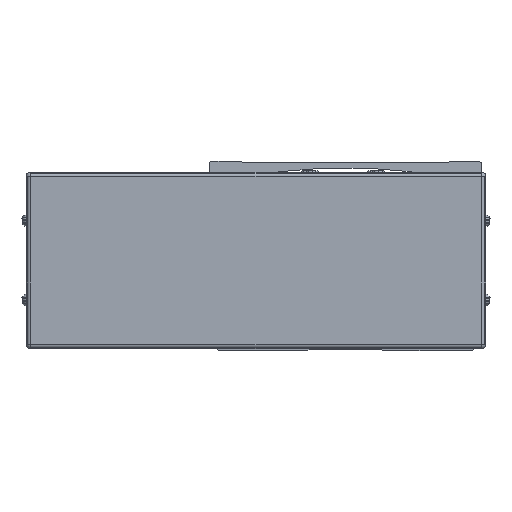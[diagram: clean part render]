
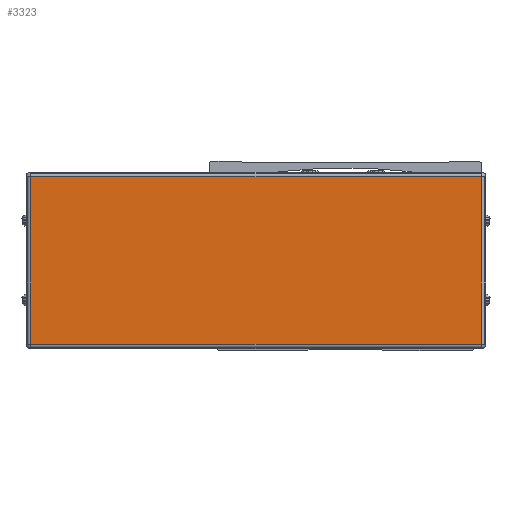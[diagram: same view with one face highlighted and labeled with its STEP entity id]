
A CAD part, front view. The second image highlights one B-rep face of the part: STEP entity #3323.
In plain terms, the highlighted planar face has unit normal (0, -1, 0).
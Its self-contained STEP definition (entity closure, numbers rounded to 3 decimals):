
#3323=ADVANCED_FACE('',(#8638),#8639,.F.);
#8638=FACE_OUTER_BOUND('',#16532,.T.);
#8639=PLANE('',#16533);
#16532=EDGE_LOOP('',(#26864,#26865,#26866,#26867));
#16533=AXIS2_PLACEMENT_3D('',#26868,#26869,#26870);
#26864=ORIENTED_EDGE('',*,*,#48463,.T.);
#26865=ORIENTED_EDGE('',*,*,#48464,.T.);
#26866=ORIENTED_EDGE('',*,*,#48465,.T.);
#26867=ORIENTED_EDGE('',*,*,#48466,.T.);
#26868=CARTESIAN_POINT('',(-340.5,-213.778,-8.));
#26869=DIRECTION('',(0.,1.0,0.));
#26870=DIRECTION('',(-1.0,0.,0.));
#48463=EDGE_CURVE('',#58264,#56340,#58265,.T.);
#48464=EDGE_CURVE('',#56340,#58266,#58267,.T.);
#48465=EDGE_CURVE('',#58266,#58268,#58269,.T.);
#48466=EDGE_CURVE('',#58268,#58264,#58270,.T.);
#56340=VERTEX_POINT('',#69424);
#58264=VERTEX_POINT('',#72093);
#58265=LINE('',#72094,#72095);
#58266=VERTEX_POINT('',#72096);
#58267=LINE('',#72097,#72098);
#58268=VERTEX_POINT('',#72099);
#58269=LINE('',#72100,#72101);
#58270=LINE('',#72102,#72103);
#69424=CARTESIAN_POINT('',(-442.7,-213.778,-46.));
#72093=CARTESIAN_POINT('',(-442.7,-213.778,30.));
#72094=CARTESIAN_POINT('',(-442.7,-213.778,-8.));
#72095=VECTOR('',#89360,10.0);
#72096=CARTESIAN_POINT('',(-238.3,-213.778,-46.));
#72097=CARTESIAN_POINT('',(-340.5,-213.778,-46.));
#72098=VECTOR('',#89361,10.0);
#72099=CARTESIAN_POINT('',(-238.3,-213.778,30.));
#72100=CARTESIAN_POINT('',(-238.3,-213.778,-8.));
#72101=VECTOR('',#89362,10.0);
#72102=CARTESIAN_POINT('',(-340.5,-213.778,30.));
#72103=VECTOR('',#89363,10.0);
#89360=DIRECTION('',(0.0,0.,-1.0));
#89361=DIRECTION('',(1.0,0.,0.));
#89362=DIRECTION('',(0.0,0.,1.0));
#89363=DIRECTION('',(-1.0,0.,0.));
